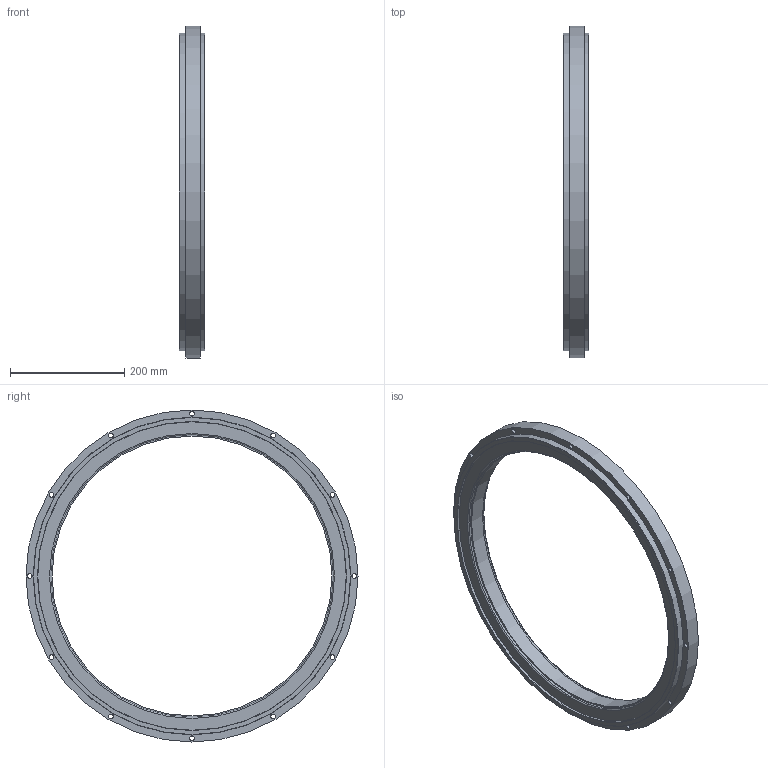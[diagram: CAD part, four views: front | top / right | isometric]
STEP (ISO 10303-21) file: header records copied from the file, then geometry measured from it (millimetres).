
FILE_DESCRIPTION(('STEP AP214'), '1');
FILE_NAME('抸迍.684222.023 栺僗闉 580x25', '', ('UNSPECIFIED'), ('UNSPECIFIED'), 'C3D Converter', 'C3D Toolkit', '');
FILE_SCHEMA(('AUTOMOTIVE_DESIGN { 1 0 10303 214 3 1 1}'));
Length unit declared in the file: millimetre
Products named in the file (1): МАНП.684222.023
Bounding box: 45 x 580 x 580 mm (x, y, z)
Volume: 2720770.9 mm3; surface area: 306164.8 mm2
Topology: 1 solids, 1 shells, 33 faces, 70 edges, 45 vertices
Faces by surface type: cylinder 20, plane 8, torus 5
Full cylindrical faces by diameter (mm): 8.4 x12, 489 x1, 494 x2, 539 x2, 555 x2, 580 x1
Entity records: 1140 total; most frequent: DIRECTION 158, CARTESIAN_POINT 124, EDGE_LOOP 90, ORIENTED_EDGE 90, AXIS2_PLACEMENT_3D 79, FACE_OUTER_BOUND 50, EDGE_CURVE 45, VERTEX_POINT 45
